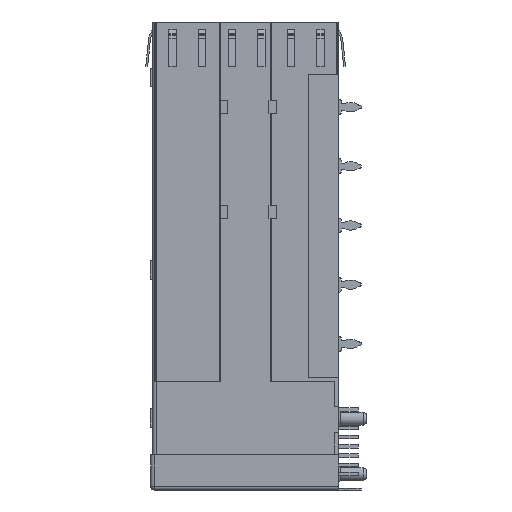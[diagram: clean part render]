
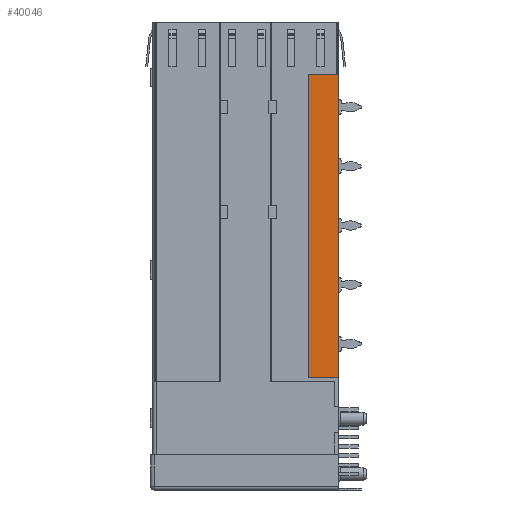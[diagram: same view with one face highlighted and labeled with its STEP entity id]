
A CAD part, left-side view. The second image highlights one B-rep face of the part: STEP entity #40046.
In plain terms, the highlighted planar face has unit normal (-1, 0, 0).
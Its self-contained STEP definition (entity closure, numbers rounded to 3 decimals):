
#1051 = CARTESIAN_POINT ( 'NONE',  ( -43.125, 0., -7.1 ) ) ;
#1534 = VECTOR ( 'NONE', #15669, 1000. ) ;
#1815 = DIRECTION ( 'NONE',  ( 1., 0., 0. ) ) ;
#4466 = EDGE_CURVE ( 'NONE', #49264, #20312, #51852, .T. ) ;
#10603 = CARTESIAN_POINT ( 'NONE',  ( -43.125, 4.1, -7.1 ) ) ;
#10624 = DIRECTION ( 'NONE',  ( 0., 0., 1. ) ) ;
#15669 = DIRECTION ( 'NONE',  ( 0., 1., 0. ) ) ;
#17037 = CARTESIAN_POINT ( 'NONE',  ( -43.125, 4.1, -7.1 ) ) ;
#17599 = CARTESIAN_POINT ( 'NONE',  ( -43.125, 0., 0. ) ) ;
#17898 = ORIENTED_EDGE ( 'NONE', *, *, #80264, .F. ) ;
#20312 = VERTEX_POINT ( 'NONE', #17037 ) ;
#22676 = VERTEX_POINT ( 'NONE', #37615 ) ;
#23415 = LINE ( 'NONE', #76589, #87232 ) ;
#25161 = ORIENTED_EDGE ( 'NONE', *, *, #68750, .F. ) ;
#28915 = VERTEX_POINT ( 'NONE', #52843 ) ;
#32059 = LINE ( 'NONE', #1051, #72294 ) ;
#37615 = CARTESIAN_POINT ( 'NONE',  ( -43.125, 0., -7.1 ) ) ;
#40046 = ADVANCED_FACE ( 'NONE', ( #75631 ), #73782, .F. ) ;
#42057 = AXIS2_PLACEMENT_3D ( 'NONE', #17599, #1815, #58112 ) ;
#44376 = DIRECTION ( 'NONE',  ( 0., 0., -1. ) ) ;
#49264 = VERTEX_POINT ( 'NONE', #74269 ) ;
#51852 = LINE ( 'NONE', #10603, #91616 ) ;
#52843 = CARTESIAN_POINT ( 'NONE',  ( -43.125, 0., -48.1 ) ) ;
#58112 = DIRECTION ( 'NONE',  ( 0., 0., 1. ) ) ;
#58309 = ORIENTED_EDGE ( 'NONE', *, *, #4466, .F. ) ;
#60749 = EDGE_LOOP ( 'NONE', ( #25161, #58309, #88552, #17898 ) ) ;
#68750 = EDGE_CURVE ( 'NONE', #20312, #22676, #32059, .T. ) ;
#72294 = VECTOR ( 'NONE', #96894, 1000. ) ;
#73782 = PLANE ( 'NONE',  #42057 ) ;
#74269 = CARTESIAN_POINT ( 'NONE',  ( -43.125, 4.1, -48.1 ) ) ;
#75631 = FACE_OUTER_BOUND ( 'NONE', #60749, .T. ) ;
#76589 = CARTESIAN_POINT ( 'NONE',  ( -43.125, 0., -7.1 ) ) ;
#80264 = EDGE_CURVE ( 'NONE', #22676, #28915, #23415, .T. ) ;
#84209 = LINE ( 'NONE', #87762, #1534 ) ;
#87232 = VECTOR ( 'NONE', #44376, 1000. ) ;
#87762 = CARTESIAN_POINT ( 'NONE',  ( -43.125, 0., -48.1 ) ) ;
#88552 = ORIENTED_EDGE ( 'NONE', *, *, #91672, .F. ) ;
#91616 = VECTOR ( 'NONE', #10624, 1000. ) ;
#91672 = EDGE_CURVE ( 'NONE', #28915, #49264, #84209, .T. ) ;
#96894 = DIRECTION ( 'NONE',  ( 0., -1., 0. ) ) ;
